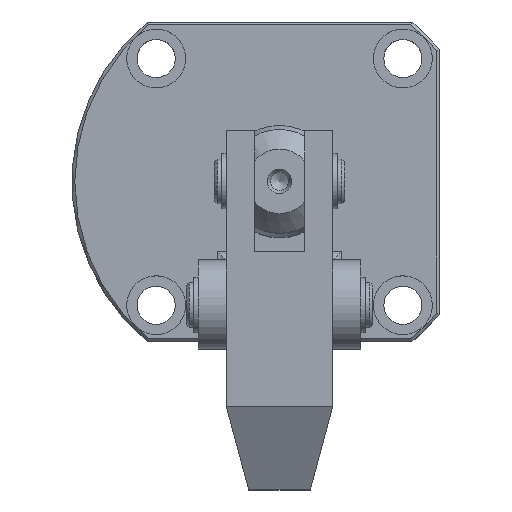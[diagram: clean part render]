
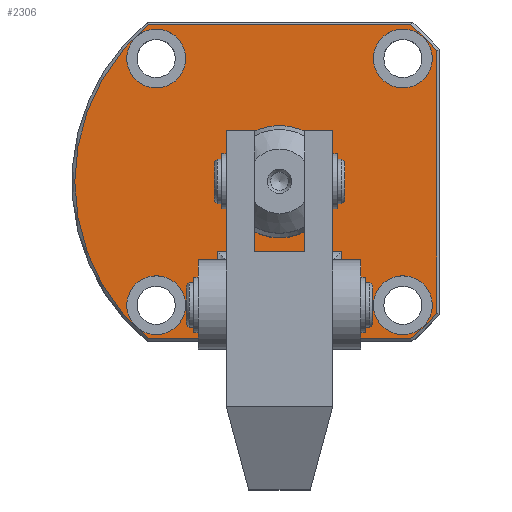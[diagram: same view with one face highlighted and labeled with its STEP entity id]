
A CAD part, top view. The second image highlights one B-rep face of the part: STEP entity #2306.
In plain terms, the highlighted planar face has unit normal (0, 0, 1).
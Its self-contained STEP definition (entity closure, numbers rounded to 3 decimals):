
#113=CIRCLE('',#2557,36.5);
#114=CIRCLE('',#2558,36.5);
#115=CIRCLE('',#2559,36.5);
#116=CIRCLE('',#2560,10.);
#117=CIRCLE('',#2561,5.25);
#118=CIRCLE('',#2562,5.25);
#119=CIRCLE('',#2563,5.25);
#120=CIRCLE('',#2564,5.25);
#277=PLANE('',#2556);
#354=LINE('',#3652,#477);
#377=LINE('',#3709,#500);
#378=LINE('',#3711,#501);
#379=LINE('',#3713,#502);
#380=LINE('',#3715,#503);
#381=LINE('',#3719,#504);
#382=LINE('',#3723,#505);
#477=VECTOR('',#2885,1000.);
#500=VECTOR('',#2930,1000.);
#501=VECTOR('',#2931,1000.);
#502=VECTOR('',#2932,1000.);
#503=VECTOR('',#2933,1000.);
#504=VECTOR('',#2936,1000.);
#505=VECTOR('',#2939,1000.);
#649=ORIENTED_EDGE('',*,*,#1188,.T.);
#650=ORIENTED_EDGE('',*,*,#1214,.T.);
#651=ORIENTED_EDGE('',*,*,#1215,.T.);
#652=ORIENTED_EDGE('',*,*,#1216,.T.);
#653=ORIENTED_EDGE('',*,*,#1217,.T.);
#654=ORIENTED_EDGE('',*,*,#1218,.T.);
#655=ORIENTED_EDGE('',*,*,#1219,.T.);
#656=ORIENTED_EDGE('',*,*,#1220,.T.);
#657=ORIENTED_EDGE('',*,*,#1221,.T.);
#658=ORIENTED_EDGE('',*,*,#1222,.T.);
#659=ORIENTED_EDGE('',*,*,#1223,.T.);
#660=ORIENTED_EDGE('',*,*,#1224,.F.);
#661=ORIENTED_EDGE('',*,*,#1225,.F.);
#662=ORIENTED_EDGE('',*,*,#1226,.F.);
#663=ORIENTED_EDGE('',*,*,#1227,.F.);
#1188=EDGE_CURVE('',#1478,#1477,#354,.T.);
#1214=EDGE_CURVE('',#1477,#1497,#377,.F.);
#1215=EDGE_CURVE('',#1497,#1498,#378,.F.);
#1216=EDGE_CURVE('',#1498,#1499,#379,.F.);
#1217=EDGE_CURVE('',#1499,#1500,#380,.T.);
#1218=EDGE_CURVE('',#1500,#1501,#113,.T.);
#1219=EDGE_CURVE('',#1501,#1502,#381,.T.);
#1220=EDGE_CURVE('',#1502,#1503,#114,.T.);
#1221=EDGE_CURVE('',#1503,#1504,#382,.T.);
#1222=EDGE_CURVE('',#1504,#1478,#115,.T.);
#1223=EDGE_CURVE('',#1505,#1505,#116,.T.);
#1224=EDGE_CURVE('',#1506,#1506,#117,.T.);
#1225=EDGE_CURVE('',#1507,#1507,#118,.T.);
#1226=EDGE_CURVE('',#1508,#1508,#119,.T.);
#1227=EDGE_CURVE('',#1509,#1509,#120,.T.);
#1477=VERTEX_POINT('',#3651);
#1478=VERTEX_POINT('',#3653);
#1497=VERTEX_POINT('',#3710);
#1498=VERTEX_POINT('',#3712);
#1499=VERTEX_POINT('',#3714);
#1500=VERTEX_POINT('',#3716);
#1501=VERTEX_POINT('',#3718);
#1502=VERTEX_POINT('',#3720);
#1503=VERTEX_POINT('',#3722);
#1504=VERTEX_POINT('',#3724);
#1505=VERTEX_POINT('',#3727);
#1506=VERTEX_POINT('',#3729);
#1507=VERTEX_POINT('',#3731);
#1508=VERTEX_POINT('',#3733);
#1509=VERTEX_POINT('',#3735);
#1714=EDGE_LOOP('',(#649,#650,#651,#652,#653,#654,#655,#656,#657,#658));
#1715=EDGE_LOOP('',(#659));
#1716=EDGE_LOOP('',(#660));
#1717=EDGE_LOOP('',(#661));
#1718=EDGE_LOOP('',(#662));
#1719=EDGE_LOOP('',(#663));
#1979=FACE_BOUND('',#1714,.T.);
#1980=FACE_BOUND('',#1715,.T.);
#1981=FACE_BOUND('',#1716,.T.);
#1982=FACE_BOUND('',#1717,.T.);
#1983=FACE_BOUND('',#1718,.T.);
#1984=FACE_BOUND('',#1719,.T.);
#2306=ADVANCED_FACE('',(#1979,#1980,#1981,#1982,#1983,#1984),#277,.T.);
#2556=AXIS2_PLACEMENT_3D('',#3708,#2928,#2929);
#2557=AXIS2_PLACEMENT_3D('',#3717,#2934,#2935);
#2558=AXIS2_PLACEMENT_3D('',#3721,#2937,#2938);
#2559=AXIS2_PLACEMENT_3D('',#3725,#2940,#2941);
#2560=AXIS2_PLACEMENT_3D('',#3726,#2942,#2943);
#2561=AXIS2_PLACEMENT_3D('',#3728,#2944,#2945);
#2562=AXIS2_PLACEMENT_3D('',#3730,#2946,#2947);
#2563=AXIS2_PLACEMENT_3D('',#3732,#2948,#2949);
#2564=AXIS2_PLACEMENT_3D('',#3734,#2950,#2951);
#2885=DIRECTION('',(1.,0.,0.));
#2928=DIRECTION('',(0.,0.,1.));
#2929=DIRECTION('',(0.,-1.,0.));
#2930=DIRECTION('',(0.,-1.,0.));
#2931=DIRECTION('',(-1.,0.,0.));
#2932=DIRECTION('',(0.,1.,0.));
#2933=DIRECTION('',(1.,0.,0.));
#2934=DIRECTION('',(0.,0.,1.));
#2935=DIRECTION('',(0.,-1.,0.));
#2936=DIRECTION('',(0.,1.,0.));
#2937=DIRECTION('',(0.,0.,1.));
#2938=DIRECTION('',(0.,-1.,0.));
#2939=DIRECTION('',(-1.,0.,0.));
#2940=DIRECTION('',(0.,0.,1.));
#2941=DIRECTION('',(0.,-1.,0.));
#2942=DIRECTION('',(0.,0.,-1.));
#2943=DIRECTION('',(0.,-1.,0.));
#2944=DIRECTION('',(0.,0.,1.));
#2945=DIRECTION('',(1.,0.,0.));
#2946=DIRECTION('',(0.,0.,1.));
#2947=DIRECTION('',(1.,0.,0.));
#2948=DIRECTION('',(0.,0.,1.));
#2949=DIRECTION('',(1.,0.,0.));
#2950=DIRECTION('',(0.,0.,1.));
#2951=DIRECTION('',(1.,0.,0.));
#3651=CARTESIAN_POINT('',(-20.,2.5,19.5));
#3652=CARTESIAN_POINT('',(-9.,2.5,19.5));
#3653=CARTESIAN_POINT('',(-32.415,2.5,19.5));
#3708=CARTESIAN_POINT('',(-9.,30.5,19.5));
#3709=CARTESIAN_POINT('',(-20.,16.5,19.5));
#3710=CARTESIAN_POINT('',(-20.,18.,19.5));
#3711=CARTESIAN_POINT('',(-9.,18.,19.5));
#3712=CARTESIAN_POINT('',(2.,18.,19.5));
#3713=CARTESIAN_POINT('',(2.,30.5,19.5));
#3714=CARTESIAN_POINT('',(2.,2.5,19.5));
#3715=CARTESIAN_POINT('',(-9.,2.5,19.5));
#3716=CARTESIAN_POINT('',(14.415,2.5,19.5));
#3717=CARTESIAN_POINT('',(-9.,30.5,19.5));
#3718=CARTESIAN_POINT('',(19.,7.085,19.5));
#3719=CARTESIAN_POINT('',(19.,30.5,19.5));
#3720=CARTESIAN_POINT('',(19.,53.915,19.5));
#3721=CARTESIAN_POINT('',(-9.,30.5,19.5));
#3722=CARTESIAN_POINT('',(14.415,58.5,19.5));
#3723=CARTESIAN_POINT('',(-9.,58.5,19.5));
#3724=CARTESIAN_POINT('',(-32.415,58.5,19.5));
#3725=CARTESIAN_POINT('',(-9.,30.5,19.5));
#3726=CARTESIAN_POINT('',(-9.,30.5,19.5));
#3727=CARTESIAN_POINT('',(-9.,20.5,19.5));
#3728=CARTESIAN_POINT('',(13.,52.5,19.5));
#3729=CARTESIAN_POINT('',(18.25,52.5,19.5));
#3730=CARTESIAN_POINT('',(13.,8.5,19.5));
#3731=CARTESIAN_POINT('',(18.25,8.5,19.5));
#3732=CARTESIAN_POINT('',(-31.,8.5,19.5));
#3733=CARTESIAN_POINT('',(-25.75,8.5,19.5));
#3734=CARTESIAN_POINT('',(-31.,52.5,19.5));
#3735=CARTESIAN_POINT('',(-25.75,52.5,19.5));
